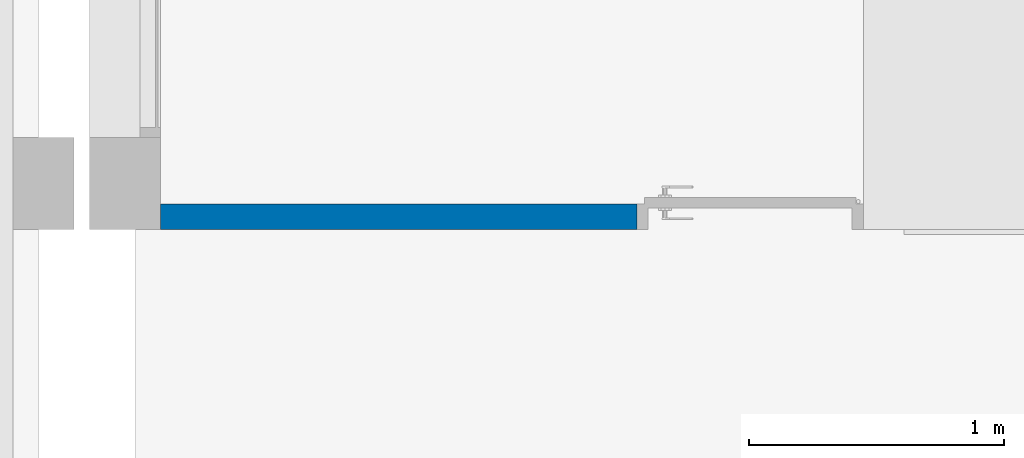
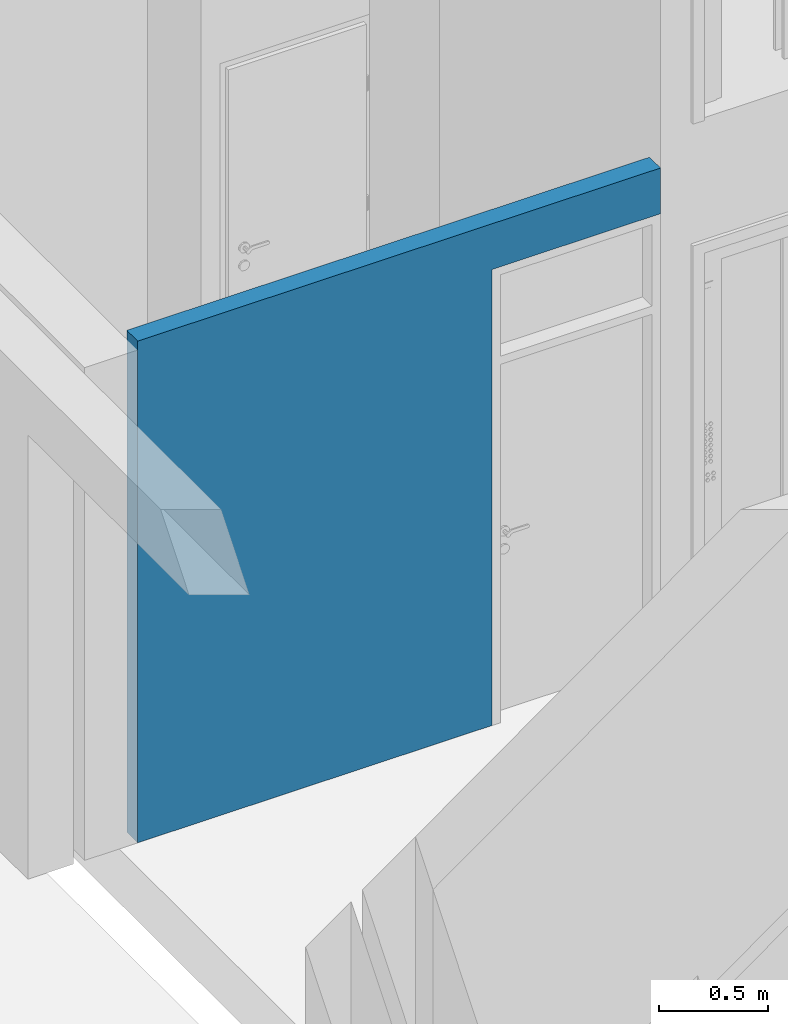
# One storey, part 8 of 45: 1 wall, 1 opening.
"""IFC2X3 building model written with IfcOpenShell, lengths in metres."""

from ifc_helpers import new_model, entity, si_unit, converted_unit, money_unit, direction, frame, origin_with_axes, place, context, subcontext, project, spatial, polyline, outline, extrude, material, layer, layer_set, layer_usage, type_object, element, save


model = new_model("IFC2X3")

# Units and contexts
model_context = context("Model", 3, precision=1e-05, world=origin_with_axes(), true_north=direction((0.0, 1.0)))
body_context = subcontext(model_context, "Body", "Model", "MODEL_VIEW")
ifc_project = project(units=[si_unit("LENGTHUNIT", "METRE"), si_unit("AREAUNIT", "SQUARE_METRE"), si_unit("VOLUMEUNIT", "CUBIC_METRE"), converted_unit("PLANEANGLEUNIT", "DEGREE", entity("IfcPlaneAngleMeasure", 0.0174532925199), si_unit("PLANEANGLEUNIT", "RADIAN"), dimensions=[0, 0, 0, 0, 0, 0, 0]), si_unit("SOLIDANGLEUNIT", "STERADIAN"), money_unit("EUR"), converted_unit("TIMEUNIT", "Year", entity("IfcTimeMeasure", 31556926.0), si_unit("TIMEUNIT", "SECOND"), dimensions=[0, 0, 0, 0, 0, 0, 0]), si_unit("MASSUNIT", "GRAM"), si_unit("THERMODYNAMICTEMPERATUREUNIT", "DEGREE_CELSIUS"), si_unit("LUMINOUSINTENSITYUNIT", "LUMEN")], contexts=[model_context])

# Site, building, storey
site_placement = place(None, origin_with_axes())
site = spatial("IfcSite", under=ifc_project, at=site_placement, Name="Site", CompositionType="ELEMENT")
building_placement = place(site_placement, origin_with_axes())
building = spatial("IfcBuilding", under=site, at=building_placement, Name="Bâtiment", CompositionType="ELEMENT")
storey_placement = place(building_placement, origin_with_axes())
storey = spatial("IfcBuildingStorey", under=building, at=storey_placement, Name="NIVEAU BAS GYMNASE", CompositionType="ELEMENT", Elevation=0.0)

# Wall, opening
ifc_material = material(Name="Hachure solide* 4022991772")
ifc_layer = layer(ifc_material, 0.1, ventilated="UNKNOWN")
ifc_layer_set = layer_set([ifc_layer], Name="Hachure solide* 4022991772 0.1")
ifc_layer_usage = layer_usage(ifc_layer_set, "AXIS2", "POSITIVE", -0.1)
wall_type = type_object("IfcWallType", Name="Hachure solide* 4022991772 100", PredefinedType="NOTDEFINED")
wall_placement = place(storey_placement, frame((48.518457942, 15.808815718, 0.0), z_axis=(0.0, 0.0, 1.0), x_axis=(-1.0, 0.0, 0.0)))
wall = element("IfcWallStandardCase", 1, at=wall_placement, inside=storey, type_object=wall_type, material=ifc_layer_usage, Name="Mur-004", context=body_context, shape_type="SweptSolid", body=[
    extrude(outline(polyline([(0.0, -0.1), (2.76, -0.1), (2.76, 0.0), (0.0, 0.0), (0.0, -0.1)])), origin_with_axes(), (0.0, 0.0, 1.0), 2.8),
])
opening_placement = place(wall_placement, frame((0.444999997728, 0.0, -0.01), z_axis=(0.0, 0.0, 1.0), x_axis=(1.0, 0.0, 0.0)))
element("IfcOpeningElement", 2, at=opening_placement, cuts=wall, Name="Por-018", context=body_context, shape_type="SweptSolid", body=[
    extrude(outline(polyline([(-0.445, 0.0), (-0.445, -2.555), (0.445, -2.555), (0.445, 0.0), (-0.445, 0.0)])), frame((0.0, 0.1, 0.0), z_axis=(0.0, -1.0, 0.0), x_axis=(-1.0, 0.0, 0.0)), (0.0, 0.0, 1.0), 0.2),
])

save(model, "model.ifc")
